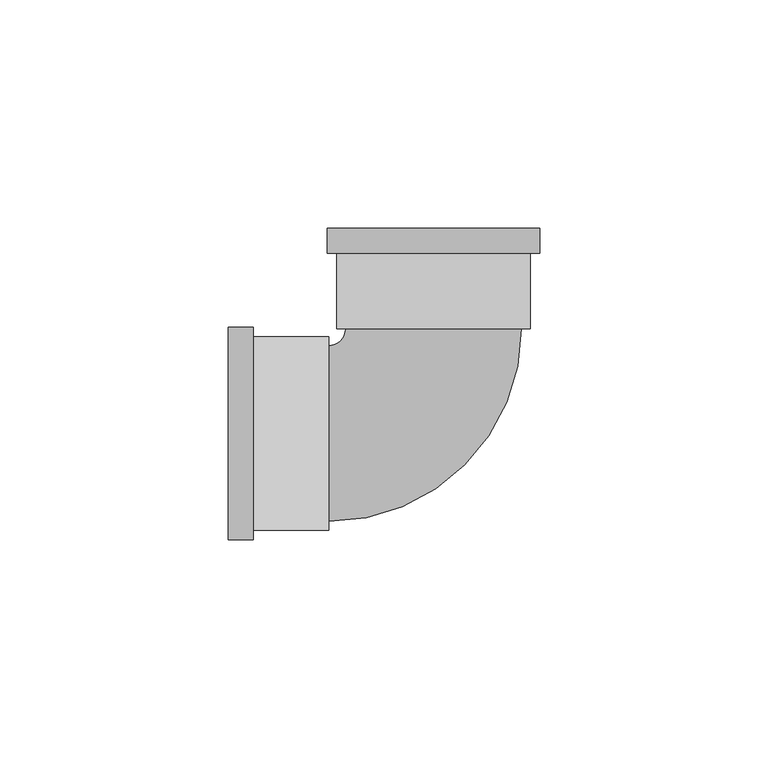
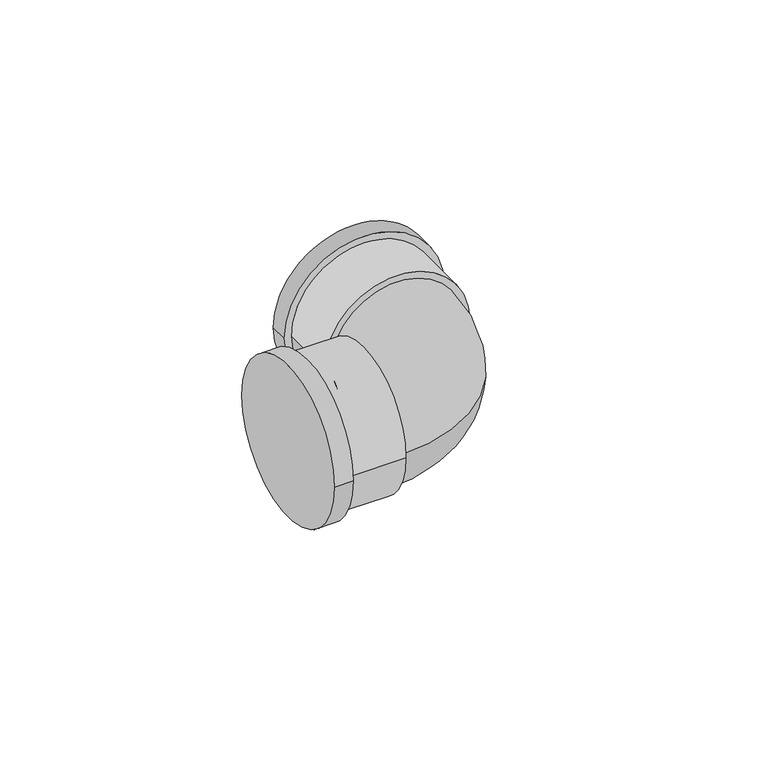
"""IFC4 building model written with IfcOpenShell, lengths in millimetres: pipe fitting geometry, Cotovelo - PVC - CW : Padrão."""

from ifc_helpers import new_model, si_unit, point, frame, origin, place, context, project, spatial, circle_curve, ellipse_curve, trimmed, source, transform, mapped, element, save
from ifc_brep_helpers import plane_surface, cylinder_surface, revolved_surface, advanced_brep


def pipe_fitting_02632e46(model_context):
    return source(origin(), model_context, "Body", "AdvancedBrep", [
        advanced_brep(
        [(-45.0001398, -23.2925, 0.0), (-45.0001398, 23.2925, 0.0), (-39.5001398, -23.2925, 0.0), (-39.5001398, 23.2925, 0.0), (-39.5001398, -21.175, 0.0), (-39.5001398, 21.175, 0.0), (-23.0001398, 21.175, 0.0), (-23.0001398, -21.175, 0.0), (-23.0001398, -19.25, 0.0), (-23.0001398, 19.25, 0.0), (-19.2501398, 23.0000228, 0.0), (19.2498602, 23.0002568, 0.0), (21.1748602, 23.0002685, 0.0), (-21.1751398, 23.0000111, 0.0), (-23.2927735, 44.9999982, 0.0), (23.2922265, 45.0002814, 0.0), (21.1747599, 39.5002685, 0.0), (-21.1752401, 39.5000111, 0.0), (-23.2927401, 39.4999982, 0.0), (23.2922599, 39.5002814, 0.0)],
        [
            (0, 1, circle_curve(frame((-45.0001398, 0.0, 0.0), z_axis=(-1.0, 0.0, 0.0), x_axis=(0.0, 1.0, 0.0)), 23.2925)),
            (1, 0, circle_curve(frame((-45.0001398, 0.0, 0.0), z_axis=(-1.0, 0.0, 0.0), x_axis=(0.0, 1.0, 0.0)), 23.2925)),
            (2, 3, circle_curve(frame((-39.5001398, 0.0, 0.0), z_axis=(1.0, 0.0, 0.0), x_axis=(0.0, 1.0, 0.0)), 23.2925)),
            (3, 2, circle_curve(frame((-39.5001398, 0.0, 0.0), z_axis=(1.0, 0.0, 0.0), x_axis=(0.0, 1.0, 0.0)), 23.2925)),
            (4, 5, circle_curve(frame((-39.5001398, 0.0, 0.0), z_axis=(-1.0, 0.0, 0.0), x_axis=(0.0, -1.0, 0.0)), 21.175)),
            (5, 4, circle_curve(frame((-39.5001398, 0.0, 0.0), z_axis=(-1.0, 0.0, 0.0), x_axis=(0.0, -1.0, 0.0)), 21.175)),
            (0, 2),
            (3, 1),
            (6, 7, circle_curve(frame((-23.0001398, 0.0, 0.0), z_axis=(1.0, 0.0, 0.0), x_axis=(0.0, -1.0, 0.0)), 21.175)),
            (7, 6, circle_curve(frame((-23.0001398, 0.0, 0.0), z_axis=(1.0, 0.0, 0.0), x_axis=(0.0, -1.0, 0.0)), 21.175)),
            (8, 9, circle_curve(frame((-23.0001398, 0.0, 0.0), z_axis=(-1.0, 0.0, 0.0), x_axis=(0.0, 1.0, 0.0)), 19.25)),
            (9, 8, circle_curve(frame((-23.0001398, 0.0, 0.0), z_axis=(-1.0, 0.0, 0.0), x_axis=(0.0, 1.0, 0.0)), 19.25)),
            (6, 5),
            (4, 7),
            (10, 9, circle_curve(frame((-23.0001398, 23.0, 0.0), z_axis=(0.0, 0.0, -1.0), x_axis=(0.0, -1.0, 0.0)), 3.75)),
            (8, 11, circle_curve(frame((-23.0001398, 23.0, 0.0), z_axis=(0.0, 0.0, 1.0), x_axis=(0.0, -1.0, 0.0)), 42.25)),
            (11, 10, circle_curve(frame((-0.0001398, 23.0001398, 0.0), z_axis=(6.078609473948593e-06, -0.9999999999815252, 0.0), x_axis=(-0.9999999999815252, -6.078609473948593e-06, 0.0)), 19.25)),
            (10, 11, circle_curve(frame((-0.0001398, 23.0001398, 0.0), z_axis=(6.078609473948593e-06, -0.9999999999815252, 0.0), x_axis=(-0.9999999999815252, -6.078609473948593e-06, 0.0)), 19.25)),
            (12, 13, circle_curve(frame((-0.0001398, 23.0001398, 0.0), z_axis=(6.078609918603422e-06, -0.9999999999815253, 0.0), x_axis=(-0.9999999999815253, -6.078609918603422e-06, 0.0)), 21.175)),
            (13, 12, circle_curve(frame((-0.0001398, 23.0001398, 0.0), z_axis=(6.078609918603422e-06, -0.9999999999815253, 0.0), x_axis=(-0.9999999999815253, -6.078609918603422e-06, 0.0)), 21.175)),
            (14, 15, circle_curve(frame((-0.0002735, 45.0001398, 0.0), z_axis=(-6.078609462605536e-06, 0.9999999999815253, 0.0), x_axis=(0.9999999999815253, 6.078609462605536e-06, 0.0)), 23.2925)),
            (15, 14, circle_curve(frame((-0.0002735, 45.0001398, 0.0), z_axis=(-6.078609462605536e-06, 0.9999999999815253, 0.0), x_axis=(0.9999999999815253, 6.078609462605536e-06, 0.0)), 23.2925)),
            (12, 16),
            (16, 17, circle_curve(frame((-0.0002401, 39.5001398, 0.0), z_axis=(6.078609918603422e-06, -0.9999999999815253, 0.0), x_axis=(-0.9999999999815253, -6.078609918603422e-06, 0.0)), 21.175)),
            (17, 13),
            (17, 16, circle_curve(frame((-0.0002401, 39.5001398, 0.0), z_axis=(6.078609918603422e-06, -0.9999999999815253, 0.0), x_axis=(-0.9999999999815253, -6.078609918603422e-06, 0.0)), 21.175)),
            (18, 19, circle_curve(frame((-0.0002401, 39.5001398, 0.0), z_axis=(6.078609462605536e-06, -0.9999999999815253, 0.0), x_axis=(0.9999999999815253, 6.078609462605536e-06, 0.0)), 23.2925)),
            (19, 18, circle_curve(frame((-0.0002401, 39.5001398, 0.0), z_axis=(6.078609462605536e-06, -0.9999999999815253, 0.0), x_axis=(0.9999999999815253, 6.078609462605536e-06, 0.0)), 23.2925)),
            (14, 18),
            (19, 15),
        ],
        [
            plane_surface(frame((-45.0001398, 0.0, 0.0), z_axis=(-1.0, 0.0, 0.0), x_axis=(0.0, 0.0, 1.0))),
            plane_surface(frame((-39.5001398, 0.0, 0.0), z_axis=(1.0, 0.0, 0.0), x_axis=(0.0, 0.0, 1.0))),
            cylinder_surface(frame((-45.0001398, 0.0, 0.0), z_axis=(-1.0, 0.0, 0.0), x_axis=(0.0, 1.0, 0.0)), 23.2925),
            plane_surface(frame((-23.0001398, 0.0, 0.0), z_axis=(1.0, 0.0, 0.0), x_axis=(0.0, 0.0, 1.0))),
            cylinder_surface(frame((-23.0001398, 0.0, 0.0), z_axis=(1.0, 0.0, 0.0), x_axis=(0.0, -1.0, 0.0)), 21.175),
            revolved_surface(trimmed(ellipse_curve(frame((-23.0001398, 0.0, 0.0), z_axis=(-1.0, 0.0, 0.0), x_axis=(0.0, 1.0, 0.0)), 19.25, 19.25), [point((-23.0001398, -19.25, 0.0))], [point((-23.0001398, 19.25, 0.0))], True, "CARTESIAN"), (-23.0001398, 23.0, 0.0), (0.0, 0.0, 1.0)),
            revolved_surface(trimmed(ellipse_curve(frame((-23.0001398, 0.0, 0.0), z_axis=(-1.0, 0.0, 0.0), x_axis=(0.0, 1.0, 0.0)), 19.25, 19.25), [point((-23.0001398, 19.25, 0.0))], [point((-23.0001398, -19.25, 0.0))], True, "CARTESIAN"), (-23.0001398, 23.0, 0.0), (0.0, 0.0, 1.0)),
            plane_surface(frame((-0.0001398, 23.0001398, 0.0), z_axis=(6.078609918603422e-06, -0.9999999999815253, 0.0), x_axis=(0.0, 0.0, 1.0))),
            plane_surface(frame((-0.0002735, 45.0001398, 0.0), z_axis=(-6.078609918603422e-06, 0.9999999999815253, 0.0), x_axis=(0.0, 0.0, 1.0))),
            cylinder_surface(frame((-0.0001398, 23.0001398, 0.0), z_axis=(6.078609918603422e-06, -0.9999999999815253, 0.0), x_axis=(-0.9999999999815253, -6.078609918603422e-06, 0.0)), 21.175),
            plane_surface(frame((-0.0002401, 39.5001398, 0.0), z_axis=(6.078609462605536e-06, -0.9999999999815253, 0.0), x_axis=(0.0, 0.0, 1.0))),
            cylinder_surface(frame((-0.0002735, 45.0001398, 0.0), z_axis=(-6.078609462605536e-06, 0.9999999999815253, 0.0), x_axis=(0.9999999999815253, 6.078609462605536e-06, 0.0)), 23.2925),
        ],
        [
            (0, [[1, 2]]),
            (1, [[3, 4], [5, 6]]),
            (2, [[-1, 7, -4, 8]]),
            (2, [[-2, -8, -3, -7]]),
            (3, [[9, 10], [11, 12]]),
            (4, [[-9, 13, -5, 14]]),
            (4, [[-10, -14, -6, -13]]),
            (5, [[15, -11, 16, 17]]),
            (6, [[-15, 18, -16, -12]]),
            (7, [[19, 20], [-17, -18]]),
            (8, [[21, 22]]),
            (9, [[-19, 23, 24, 25]]),
            (9, [[-20, -25, 26, -23]]),
            (10, [[27, 28], [-24, -26]]),
            (11, [[-21, 29, -28, 30]]),
            (11, [[-22, -30, -27, -29]]),
        ],
    ),
    ])


if __name__ == "__main__":
    model = new_model("IFC4")
    model_context = context("Model", 3, world=origin())
    ifc_project = project(units=[si_unit("LENGTHUNIT", "METRE", prefix="MILLI")], contexts=[model_context])
    site = spatial("IfcSite", under=ifc_project)
    building = spatial("IfcBuilding", under=site)
    placement = place(None, origin())
    pipe_fitting_shape = pipe_fitting_02632e46(model_context)
    element("IfcPipeFitting", 1, ObjectType="Cotovelo - PVC - CW : Padrão", at=placement, inside=building, context=model_context, shape_type="MappedRepresentation", body=[
        mapped(pipe_fitting_shape, transform((0.0, 0.0, 0.0), x_axis=(1.0, 0.0, 0.0), y_axis=(0.0, 1.0, 0.0), z_axis=(0.0, 0.0, 1.0))),
    ])
    save(model, "model.ifc")
